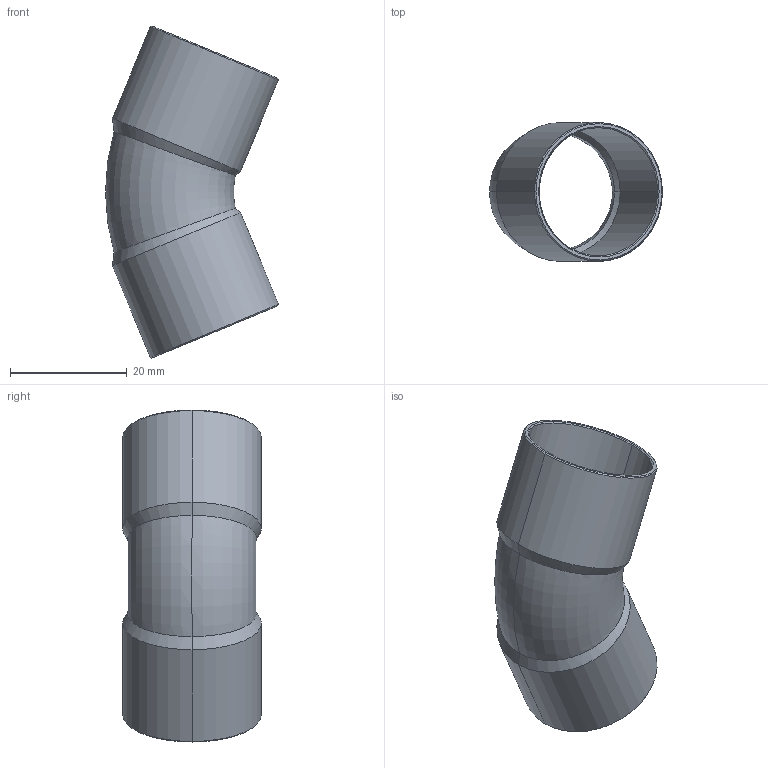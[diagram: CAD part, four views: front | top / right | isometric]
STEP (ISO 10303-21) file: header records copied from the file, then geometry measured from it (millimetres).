
FILE_DESCRIPTION((''),'2;1');
FILE_NAME('P:\Bouwmaten\z-maattekeningen 3D\5000\5040\1504122.stp','2005-10-12T14:36:08',('Kris'),(''),'Autodesk Inventor 8','Autodesk Inventor 8','');
FILE_SCHEMA(('AUTOMOTIVE_DESIGN { 1 0 10303 214 1 1 1 1 }'));
Length unit declared in the file: millimetre
Products named in the file (1): 1504122
Bounding box: 29.69 x 23.8 x 57 mm (x, y, z)
Volume: 3238.9 mm3; surface area: 7306.1 mm2
Topology: 1 solids, 1 shells, 30 faces, 60 edges, 32 vertices
Faces by surface type: cone 12, bspline 9, torus 4, cylinder 4, plane 1
Entity records: 1027 total; most frequent: CARTESIAN_POINT 414, DIRECTION 124, ORIENTED_EDGE 120, EDGE_CURVE 60, AXIS2_PLACEMENT_3D 50, VERTEX_POINT 32, EDGE_LOOP 32, FACE_OUTER_BOUND 30
